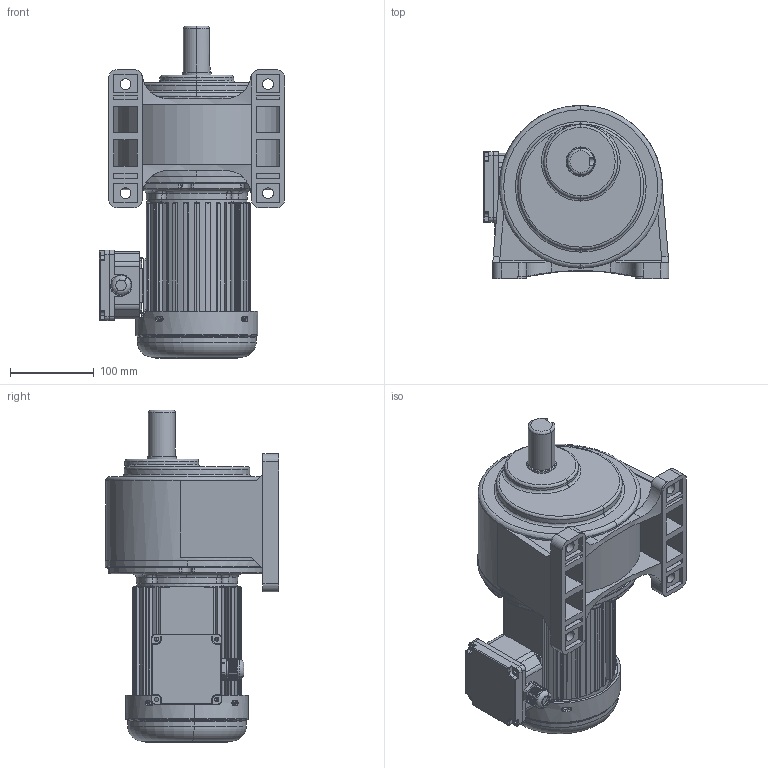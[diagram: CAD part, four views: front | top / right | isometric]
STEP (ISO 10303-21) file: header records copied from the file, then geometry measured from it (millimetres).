
FILE_DESCRIPTION (( 'STEP AP203' ), '1' );
FILE_NAME ('400W配4#卧式.STEP', '2019-06-14T07:43:18', ( '微软中国' ), ( '微软用户' ), 'SwSTEP 2.0', 'SolidWorks 2012', '' );
FILE_SCHEMA (( 'CONFIG_CONTROL_DESIGN' ));
Products named in the file (10): 400W饜4#拏宒; 4#拏宒眊极; 4xg1x; 400W瑞欶; 釱菜; 綴傷裔 2_2; 坶踡ん 蚾饜; 蜊輛綴諉盄碟裔; 呿蹋諉盄碟; 儂褲 2_2
Assembly tree (9 placements, depth 2):
  400W饜4#拏宒
    儂褲 2_2
    呿蹋諉盄碟
    蜊輛綴諉盄碟裔
    坶踡ん 蚾饜
    綴傷裔 2_2
    釱菜
    400W瑞欶
    4xg1x
    4#拏宒眊极
Bounding box: 221.35 x 207.01 x 396.14 mm (x, y, z)
Volume: 4516645.4 mm3; surface area: 683993.9 mm2
Topology: 8 solids, 10 shells, 3544 faces, 9220 edges, 5769 vertices
Faces by surface type: cylinder 1275, plane 1091, bspline 556, torus 368, cone 230, sphere 24
Entity records: 148091 total; most frequent: CARTESIAN_POINT 65588, ORIENTED_EDGE 18352, DIRECTION 15353, EDGE_CURVE 9178, AXIS2_PLACEMENT_3D 5937, VERTEX_POINT 5769, EDGE_LOOP 3953, ADVANCED_FACE 3544
